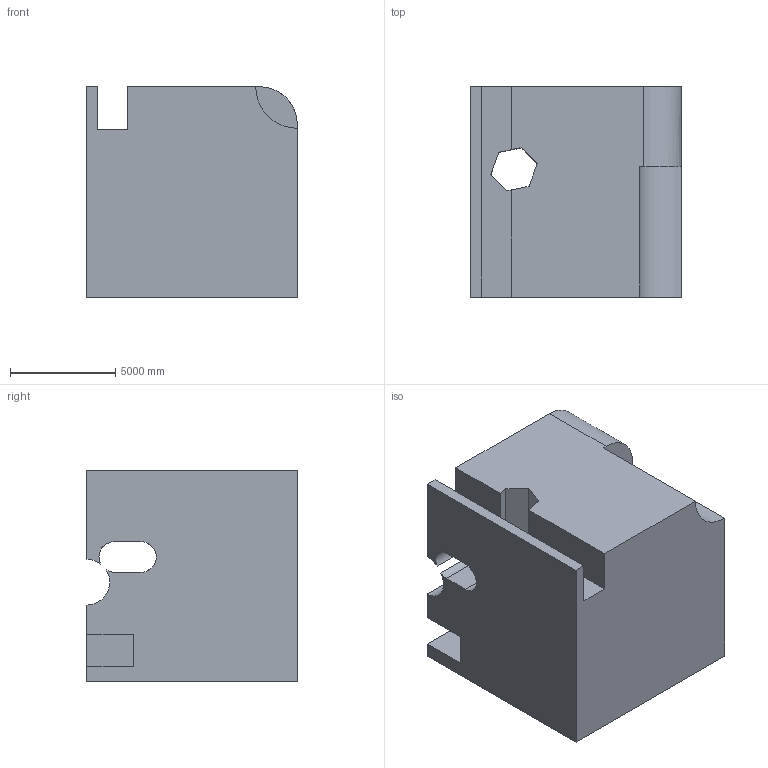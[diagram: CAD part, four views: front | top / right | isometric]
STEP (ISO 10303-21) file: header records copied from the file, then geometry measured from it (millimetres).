
FILE_DESCRIPTION (( 'STEP AP203' ), '1' );
FILE_NAME ('1990.STEP', '2022-08-25T16:58:57', ( 'user' ), ( '' ), 'SwSTEP 2.0', 'SolidWorks 2021', '' );
FILE_SCHEMA (( 'CONFIG_CONTROL_DESIGN' ));
Length unit declared in the file: centimetre
Products named in the file (1): 1990
Bounding box: 10000 x 10000 x 10000 mm (x, y, z)
Volume: 829740195642.7 mm3; surface area: 809093235.1 mm2
Topology: 1 solids, 1 shells, 49 faces, 141 edges, 94 vertices
Faces by surface type: plane 34, cylinder 15
Entity records: 1758 total; most frequent: CARTESIAN_POINT 366, ORIENTED_EDGE 282, DIRECTION 267, EDGE_CURVE 141, VECTOR 105, LINE 105, VERTEX_POINT 94, AXIS2_PLACEMENT_3D 81
